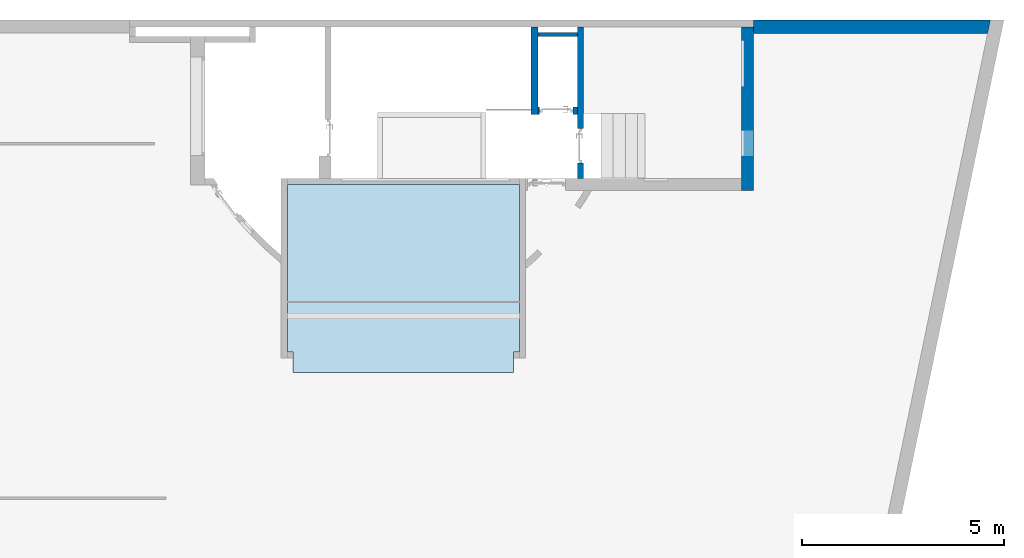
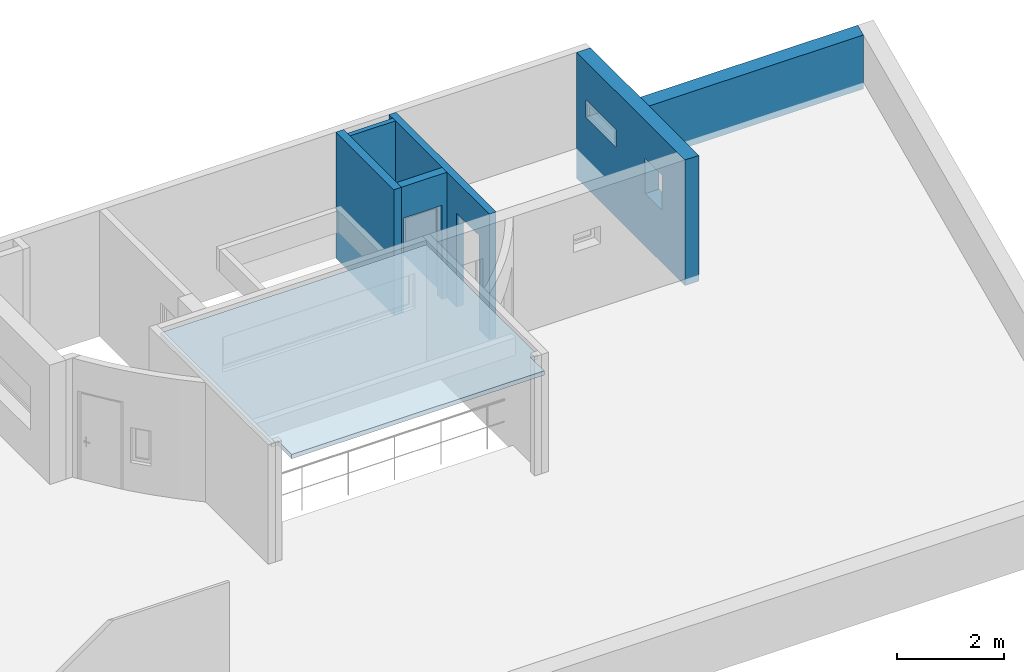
"""IFC4 building model written with IfcOpenShell, lengths in metres."""

from ifc_helpers import new_model, entity, si_unit, converted_unit, derived_unit, frame, frame_2d, origin, origin_with_axes, place, context, subcontext, project, spatial, polyline, rectangle, outline, extrude, faceted_brep, material, layer, layer_set, layer_usage, element, save


model = new_model("IFC4")

# Units and contexts
model_context = context("Model", 3, precision=1e-05, world=origin())
body_context = subcontext(model_context, "Body", "Model", "MODEL_VIEW")
ifc_project = project(units=[si_unit("LENGTHUNIT", "METRE"), si_unit("AREAUNIT", "SQUARE_METRE"), si_unit("VOLUMEUNIT", "CUBIC_METRE"), si_unit("MASSUNIT", "GRAM", prefix="KILO"), converted_unit("PLANEANGLEUNIT", "DEGREE", entity("IfcPlaneAngleMeasure", 0.0174532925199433), si_unit("PLANEANGLEUNIT", "RADIAN"), dimensions=[0, 0, 0, 0, 0, 0, 0]), derived_unit("THERMALTRANSMITTANCEUNIT", [(si_unit("POWERUNIT", "WATT"), 1), (si_unit("THERMODYNAMICTEMPERATUREUNIT", "KELVIN"), -1), (si_unit("LENGTHUNIT", "METRE"), -2)]), derived_unit("VOLUMETRICFLOWRATEUNIT", [(si_unit("LENGTHUNIT", "METRE"), 3), (converted_unit("TIMEUNIT", "hour", entity("IfcTimeMeasure", 3600.0), si_unit("TIMEUNIT", "SECOND"), dimensions=[0, 0, 1, 0, 0, 0, 0]), -1), (si_unit("LENGTHUNIT", "METRE"), -1)])], contexts=[model_context])

# Building, storeys
building_placement = place(None, origin())
building = spatial("IfcBuilding", under=ifc_project, at=building_placement, Name="HABITATGE PLURIFAMILIAR", CompositionType="ELEMENT")
storey_1_placement = place(building_placement, frame((0.0, 0.0, 21.2)))
storey_1 = spatial("IfcBuildingStorey", under=building, at=storey_1_placement, Name="PLANTA SOTACOBERTA", CompositionType="ELEMENT", Elevation=21.2)
storey_2_placement = place(storey_1_placement, origin())
storey_2 = spatial("IfcBuildingStorey", under=storey_1, at=storey_2_placement, Name="NOU", CompositionType="PARTIAL")

# Wall, openings
ifc_material_1 = material()
ifc_layer_1 = layer(ifc_material_1, 0.3)
ifc_layer_set_1 = layer_set([ifc_layer_1])
ifc_layer_usage_1 = layer_usage(ifc_layer_set_1, "AXIS2", "POSITIVE", 0.0)
wall_1_placement = place(storey_2_placement, frame((420.976931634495, 28.05824790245, 0.0), z_axis=(0.0, 0.0, 1.0), x_axis=(0.0, -1.0, 0.0)))
wall_1 = element("IfcWall", 1, at=wall_1_placement, inside=storey_2, material=ifc_layer_usage_1, Name="Mur PSC", context=body_context, shape_type="SweptSolid", body=[
    extrude(rectangle(XDim=4.04865640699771, YDim=0.3, at=frame_2d((2.02432820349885, 0.15), x_axis=(1.0, 0.0))), origin_with_axes(), (0.0, 0.0, 1.0), 2.87),
])
opening_1_placement = place(wall_1_placement, frame((2.5630564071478, 0.0, 1.2), z_axis=(0.0, 1.0, 0.0), x_axis=(0.0, 0.0, 1.0)))
element("IfcOpeningElement", 2, at=opening_1_placement, cuts=wall_1, Name="Vano finestra PSC", ObjectType="Opening", context=body_context, shape_type="SweptSolid", body=[
    extrude(outline(polyline([(0.8, 0.635599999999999), (0.8, 0.0), (0.0, 0.0), (0.0, 0.635599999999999), (0.8, 0.635599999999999)])), origin_with_axes(), (0.0, 0.0, 1.0), 0.3),
])
opening_2_placement = place(wall_1_placement, frame((0.340243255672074, 0.0, 1.6), z_axis=(0.0, 1.0, 0.0), x_axis=(0.0, 0.0, 1.0)))
element("IfcOpeningElement", 3, at=opening_2_placement, cuts=wall_1, Name="Vano finestra PSC", ObjectType="Opening", context=body_context, shape_type="SweptSolid", body=[
    extrude(outline(polyline([(0.4, 1.1388089), (0.4, 0.0), (0.0, 0.0), (0.0, 1.1388089), (0.4, 1.1388089)])), origin_with_axes(), (0.0, 0.0, 1.0), 0.3),
])

# Walls
ifc_material_2 = material()
ifc_layer_2 = layer(ifc_material_2, 0.1)
ifc_layer_set_2 = layer_set([ifc_layer_2])
ifc_layer_usage_2 = layer_usage(ifc_layer_set_2, "AXIS2", "POSITIVE", 0.0)
wall_2_placement = place(storey_2_placement, frame((415.946931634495, 27.8195914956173, 0.0)))
element("IfcWall", 4, at=wall_2_placement, inside=storey_2, material=ifc_layer_usage_2, Name="Evans PSC", context=body_context, shape_type="SweptSolid", body=[
    extrude(rectangle(XDim=0.980884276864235, YDim=0.1, at=frame_2d((0.490442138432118, 0.05), x_axis=(1.0, 0.0))), origin_with_axes(), (0.0, 0.0, 1.0), 2.87),
])
ifc_material_3 = material()
ifc_layer_3 = layer(ifc_material_3, 0.17)
ifc_layer_set_3 = layer_set([ifc_layer_3])
ifc_layer_usage_3 = layer_usage(ifc_layer_set_3, "AXIS2", "POSITIVE", 0.0)
wall_3_placement = place(storey_2_placement, frame((415.776931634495, 28.05824790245, 0.0), z_axis=(0.0, 0.0, 1.0), x_axis=(0.0, -1.0, 0.0)))
element("IfcWall", 5, at=wall_3_placement, inside=storey_2, material=ifc_layer_usage_3, Name="Evans PSC", context=body_context, shape_type="SweptSolid", body=[
    extrude(rectangle(XDim=2.16865640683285, YDim=0.17, at=frame_2d((1.08432820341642, 0.085), x_axis=(1.0, 0.0))), origin_with_axes(), (0.0, 0.0, 1.0), 2.87),
])

# Wall, opening
ifc_material_4 = material()
ifc_layer_4 = layer(ifc_material_4, 0.18)
ifc_layer_set_4 = layer_set([ifc_layer_4])
ifc_layer_usage_4 = layer_usage(ifc_layer_set_4, "AXIS2", "POSITIVE", 0.0)
wall_4_placement = place(storey_2_placement, frame((415.946931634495, 25.8895914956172, 0.0)))
wall_4 = element("IfcWall", 6, at=wall_4_placement, inside=storey_2, material=ifc_layer_usage_4, Name="Evans PSC", context=body_context, shape_type="SweptSolid", body=[
    extrude(rectangle(XDim=0.979999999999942, YDim=0.18, at=frame_2d((0.489999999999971, 0.09), x_axis=(1.0, 0.0))), origin_with_axes(), (0.0, 0.0, 1.0), 2.87),
])
opening_3_placement = place(wall_4_placement, frame((0.0399999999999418, 0.0, 0.0), z_axis=(0.0, 1.0, 0.0), x_axis=(0.0, 0.0, 1.0)))
element("IfcOpeningElement", 7, at=opening_3_placement, cuts=wall_4, Name="Vano porta PSC", ObjectType="Opening", context=body_context, shape_type="SweptSolid", body=[
    extrude(outline(polyline([(2.15, 0.83), (2.15, 0.0), (0.0, 0.0), (0.0, 0.83), (2.15, 0.83)])), origin_with_axes(), (0.0, 0.0, 1.0), 0.18),
])

ifc_material_5 = material()
ifc_layer_5 = layer(ifc_material_5, 0.15)
ifc_layer_set_5 = layer_set([ifc_layer_5])
ifc_layer_usage_5 = layer_usage(ifc_layer_set_5, "AXIS2", "POSITIVE", 0.0)
wall_5_placement = place(storey_2_placement, frame((417.076931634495, 24.310998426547, 0.0), z_axis=(0.0, 0.0, 1.0), x_axis=(0.0, 1.0, 0.0)))
wall_5 = element("IfcWall", 8, at=wall_5_placement, inside=storey_2, material=ifc_layer_usage_5, Name="Evans PSC", context=body_context, shape_type="SweptSolid", body=[
    extrude(outline(polyline([(0.0, -0.15), (3.74724947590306, -0.15), (3.74724947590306, 0.0), (3.60859306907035, 0.0), (3.60859306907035, -0.000884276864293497), (3.50859306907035, -0.000884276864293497), (3.50859306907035, 0.0), (0.0, 0.0), (0.0, -0.15)])), frame((0.0, 0.15, 0.0), z_axis=(0.0, 0.0, 1.0), x_axis=(1.0, 0.0, 0.0)), (0.0, 0.0, 1.0), 2.87),
])
opening_4_placement = place(wall_5_placement, frame((1.2285930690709, 0.15, 0.0), z_axis=(0.0, -1.0, 0.0), x_axis=(0.0, 0.0, 1.0)))
element("IfcOpeningElement", 9, at=opening_4_placement, cuts=wall_5, Name="Vano porta PSC", ObjectType="Opening", context=body_context, shape_type="SweptSolid", body=[
    extrude(outline(polyline([(2.15, 0.850000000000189), (2.15, 0.0), (0.0, 0.0), (0.0, 0.850000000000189), (2.15, 0.850000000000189)])), origin_with_axes(), (0.0, 0.0, 1.0), 0.15),
])

# Wall
ifc_material_6 = material()
ifc_layer_6 = layer(ifc_material_6, 0.33)
ifc_layer_set_6 = layer_set([ifc_layer_6])
ifc_layer_usage_6 = layer_usage(ifc_layer_set_6, "AXIS2", "POSITIVE", 0.0)
wall_6_placement = place(storey_2_placement, frame((427.142571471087, 28.22824790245, 0.0), z_axis=(0.0, 0.0, 1.0), x_axis=(-1.0, 0.0, 0.0)))
element("IfcWall", 10, at=wall_6_placement, inside=storey_2, material=ifc_layer_usage_6, Name="Evans PSC", context=body_context, shape_type="SweptSolid", body=[
    extrude(outline(polyline([(-5.86563983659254, -0.33), (0.0, -0.33), (0.0, 0.0), (-5.79726091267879, 0.0), (-5.86563983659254, -0.33)])), frame((5.86563983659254, 0.33, 0.0), z_axis=(0.0, 0.0, 1.0), x_axis=(1.0, 0.0, 0.0)), (0.0, 0.0, 1.0), 1.23),
])

# Roof
roof_placement = place(storey_2_placement, frame((409.744883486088, 19.4986756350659, 2.67)))
element("IfcRoof", 11, at=roof_placement, inside=storey_2, Name="Cobertura de vidres PSC", PredefinedType="NOTDEFINED", context=body_context, shape_type="Brep", body=[
    faceted_brep([(5.74204814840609, 4.66091586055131, 0.0), (5.74204814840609, 0.510000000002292, 0.0), (5.74204814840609, 0.510000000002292, 0.1), (5.74204814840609, 4.66091586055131, 0.1), (5.59204814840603, 0.510000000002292, 0.0), (5.59204814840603, 0.510000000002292, 0.1), (5.5920481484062, 0.0, 0.0), (5.5920481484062, 0.0, 0.1), (0.14, 0.0, 0.0), (0.14, 0.0, 0.1), (0.14, 0.510000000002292, 0.0), (0.14, 0.510000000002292, 0.1), (0.0, 0.510000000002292, 0.0), (0.0, 0.510000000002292, 0.1), (0.0, 4.66091586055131, 0.0), (0.0, 4.66091586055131, 0.1)], [[[0, 1, 2, 3]], [[1, 4, 5, 2]], [[4, 6, 7, 5]], [[6, 8, 9, 7]], [[8, 10, 11, 9]], [[10, 12, 13, 11]], [[12, 14, 15, 13]], [[14, 0, 3, 15]], [[15, 3, 2, 5, 7, 9, 11, 13]], [[0, 14, 12, 10, 8, 6, 4, 1]]], orient=[[False], [False], [False], [False], [False], [False], [False], [False], [False], [False]]),
])

save(model, "model.ifc")
